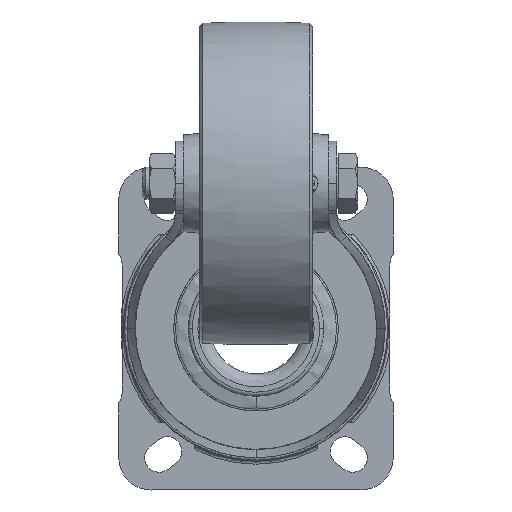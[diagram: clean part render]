
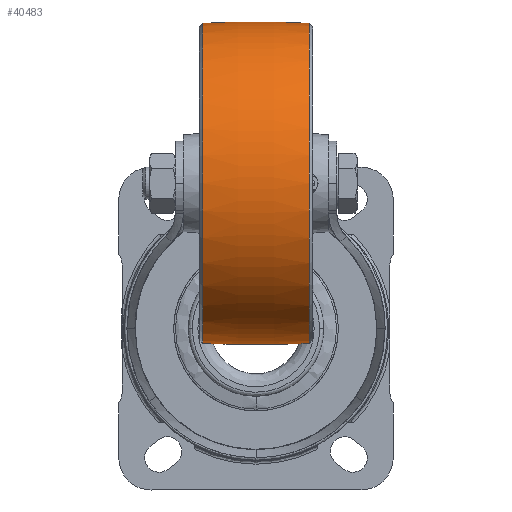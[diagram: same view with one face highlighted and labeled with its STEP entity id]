
A CAD part, front view. The second image highlights one B-rep face of the part: STEP entity #40483.
In plain terms, the highlighted toroidal (fillet/blend) face has major radius 250 mm and minor radius 300 mm.
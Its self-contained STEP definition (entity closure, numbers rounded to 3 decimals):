
#985 = AXIS2_PLACEMENT_3D ( 'NONE', #37482, #37498, #37500 ) ;
#3205 = VERTEX_POINT ( 'NONE', #49969 ) ;
#3217 = VERTEX_POINT ( 'NONE', #49982 ) ;
#3534 = VERTEX_POINT ( 'NONE', #51552 ) ;
#3629 = VERTEX_POINT ( 'NONE', #50886 ) ;
#6360 = FACE_OUTER_BOUND ( 'NONE', #42794, .T. ) ;
#6364 = TOROIDAL_SURFACE ( 'NONE', #985, -250., 300. ) ;
#7041 = CARTESIAN_POINT ( 'NONE',  ( 0., 0., 250. ) ) ;
#7043 = DIRECTION ( 'NONE',  ( 0., 1., 0. ) ) ;
#7045 = DIRECTION ( 'NONE',  ( 0., 0., 1. ) ) ;
#7049 = CARTESIAN_POINT ( 'NONE',  ( 0., 0., -250. ) ) ;
#7051 = DIRECTION ( 'NONE',  ( 0., -1., 0. ) ) ;
#7053 = DIRECTION ( 'NONE',  ( 0., 0., -1. ) ) ;
#7235 = CARTESIAN_POINT ( 'NONE',  ( -16.503, 0., 0. ) ) ;
#7236 = DIRECTION ( 'NONE',  ( 1., 0., 0. ) ) ;
#7238 = DIRECTION ( 'NONE',  ( 0., 0., -1. ) ) ;
#7266 = CARTESIAN_POINT ( 'NONE',  ( 16.44, 0., 0. ) ) ;
#7268 = DIRECTION ( 'NONE',  ( -1., 0., 0. ) ) ;
#7270 = DIRECTION ( 'NONE',  ( 0., 0., 1. ) ) ;
#12936 = CIRCLE ( 'NONE', #39882, 300. ) ;
#12946 = CIRCLE ( 'NONE', #39881, 300. ) ;
#13005 = CIRCLE ( 'NONE', #39914, 49.546 ) ;
#13016 = CIRCLE ( 'NONE', #39920, 49.549 ) ;
#37482 = CARTESIAN_POINT ( 'NONE',  ( 0., 0., 0. ) ) ;
#37498 = DIRECTION ( 'NONE',  ( -1., 0., 0. ) ) ;
#37500 = DIRECTION ( 'NONE',  ( 0., 0., 1. ) ) ;
#39881 = AXIS2_PLACEMENT_3D ( 'NONE', #7041, #7043, #7045 ) ;
#39882 = AXIS2_PLACEMENT_3D ( 'NONE', #7049, #7051, #7053 ) ;
#39914 = AXIS2_PLACEMENT_3D ( 'NONE', #7235, #7236, #7238 ) ;
#39920 = AXIS2_PLACEMENT_3D ( 'NONE', #7266, #7268, #7270 ) ;
#40483 = ADVANCED_FACE ( 'NONE', ( #6360 ), #6364, .T. ) ;
#40755 = ORIENTED_EDGE ( 'NONE', *, *, #53032, .F. ) ;
#40756 = ORIENTED_EDGE ( 'NONE', *, *, #53059, .T. ) ;
#40757 = ORIENTED_EDGE ( 'NONE', *, *, #53031, .T. ) ;
#40758 = ORIENTED_EDGE ( 'NONE', *, *, #53064, .T. ) ;
#42794 = EDGE_LOOP ( 'NONE', ( #40758, #40757, #40756, #40755 ) ) ;
#49969 = CARTESIAN_POINT ( 'NONE',  ( -16.503, 0., 49.546 ) ) ;
#49982 = CARTESIAN_POINT ( 'NONE',  ( 16.44, 0., -49.549 ) ) ;
#50886 = CARTESIAN_POINT ( 'NONE',  ( 16.44, 0., 49.549 ) ) ;
#51552 = CARTESIAN_POINT ( 'NONE',  ( -16.503, 0., -49.546 ) ) ;
#53031 = EDGE_CURVE ( 'NONE', #3217, #3534, #12946, .T. ) ;
#53032 = EDGE_CURVE ( 'NONE', #3629, #3205, #12936, .T. ) ;
#53059 = EDGE_CURVE ( 'NONE', #3534, #3205, #13005, .T. ) ;
#53064 = EDGE_CURVE ( 'NONE', #3629, #3217, #13016, .T. ) ;
